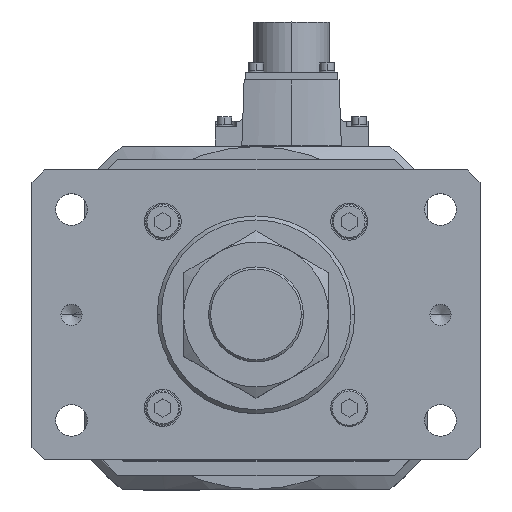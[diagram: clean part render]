
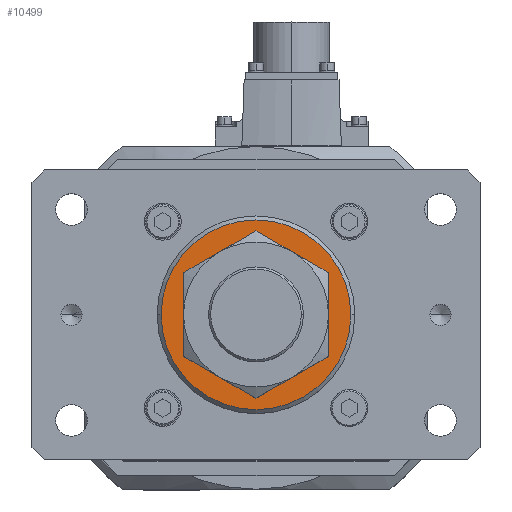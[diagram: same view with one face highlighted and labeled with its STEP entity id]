
A CAD part, top view. The second image highlights one B-rep face of the part: STEP entity #10499.
In plain terms, the highlighted planar face has unit normal (0, 0, 1).
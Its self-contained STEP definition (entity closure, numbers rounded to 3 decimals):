
#3149 = CIRCLE ( 'NONE', #30893, 23. ) ;
#5772 = EDGE_CURVE ( 'NONE', #6457, #17746, #17091, .T. ) ;
#6457 = VERTEX_POINT ( 'NONE', #35407 ) ;
#6703 = CARTESIAN_POINT ( 'NONE',  ( 0., 0., 396. ) ) ;
#6882 = CARTESIAN_POINT ( 'NONE',  ( 0., 0., 396. ) ) ;
#7409 = DIRECTION ( 'NONE',  ( 1., 0., 0. ) ) ;
#7860 = CARTESIAN_POINT ( 'NONE',  ( -23., 0., 396. ) ) ;
#9742 = DIRECTION ( 'NONE',  ( 0., 0., -1. ) ) ;
#10365 = AXIS2_PLACEMENT_3D ( 'NONE', #15378, #27137, #35312 ) ;
#10499 = ADVANCED_FACE ( 'NONE', ( #36334, #19835 ), #26758, .T. ) ;
#10635 = DIRECTION ( 'NONE',  ( 0., 0., -1. ) ) ;
#11686 = VERTEX_POINT ( 'NONE', #7860 ) ;
#14197 = CIRCLE ( 'NONE', #28104, 23. ) ;
#14775 = EDGE_LOOP ( 'NONE', ( #29465, #27710 ) ) ;
#14807 = ORIENTED_EDGE ( 'NONE', *, *, #34044, .T. ) ;
#15378 = CARTESIAN_POINT ( 'NONE',  ( 0., 0., 396. ) ) ;
#16323 = CARTESIAN_POINT ( 'NONE',  ( 0., 0., 396. ) ) ;
#17091 = CIRCLE ( 'NONE', #27640, 36. ) ;
#17141 = EDGE_CURVE ( 'NONE', #17746, #6457, #25182, .T. ) ;
#17709 = AXIS2_PLACEMENT_3D ( 'NONE', #35277, #24093, #29931 ) ;
#17746 = VERTEX_POINT ( 'NONE', #34401 ) ;
#18743 = CARTESIAN_POINT ( 'NONE',  ( 23., 0., 396. ) ) ;
#19835 = FACE_OUTER_BOUND ( 'NONE', #14775, .T. ) ;
#20078 = EDGE_CURVE ( 'NONE', #35435, #11686, #14197, .T. ) ;
#24093 = DIRECTION ( 'NONE',  ( 0., 0., 1. ) ) ;
#25182 = CIRCLE ( 'NONE', #17709, 36. ) ;
#26655 = EDGE_LOOP ( 'NONE', ( #31841, #14807 ) ) ;
#26667 = DIRECTION ( 'NONE',  ( 1., 0., 0. ) ) ;
#26758 = PLANE ( 'NONE',  #10365 ) ;
#27137 = DIRECTION ( 'NONE',  ( 0., 0., 1. ) ) ;
#27640 = AXIS2_PLACEMENT_3D ( 'NONE', #6703, #35349, #26667 ) ;
#27710 = ORIENTED_EDGE ( 'NONE', *, *, #17141, .T. ) ;
#28104 = AXIS2_PLACEMENT_3D ( 'NONE', #16323, #10635, #7409 ) ;
#29465 = ORIENTED_EDGE ( 'NONE', *, *, #5772, .T. ) ;
#29931 = DIRECTION ( 'NONE',  ( 1., 0., 0. ) ) ;
#30893 = AXIS2_PLACEMENT_3D ( 'NONE', #6882, #9742, #35404 ) ;
#31841 = ORIENTED_EDGE ( 'NONE', *, *, #20078, .T. ) ;
#34044 = EDGE_CURVE ( 'NONE', #11686, #35435, #3149, .T. ) ;
#34401 = CARTESIAN_POINT ( 'NONE',  ( 36., 0., 396. ) ) ;
#35277 = CARTESIAN_POINT ( 'NONE',  ( 0., 0., 396. ) ) ;
#35312 = DIRECTION ( 'NONE',  ( 1., 0., 0. ) ) ;
#35349 = DIRECTION ( 'NONE',  ( 0., 0., 1. ) ) ;
#35404 = DIRECTION ( 'NONE',  ( 1., 0., 0. ) ) ;
#35407 = CARTESIAN_POINT ( 'NONE',  ( -36., 0., 396. ) ) ;
#35435 = VERTEX_POINT ( 'NONE', #18743 ) ;
#36334 = FACE_BOUND ( 'NONE', #26655, .T. ) ;
